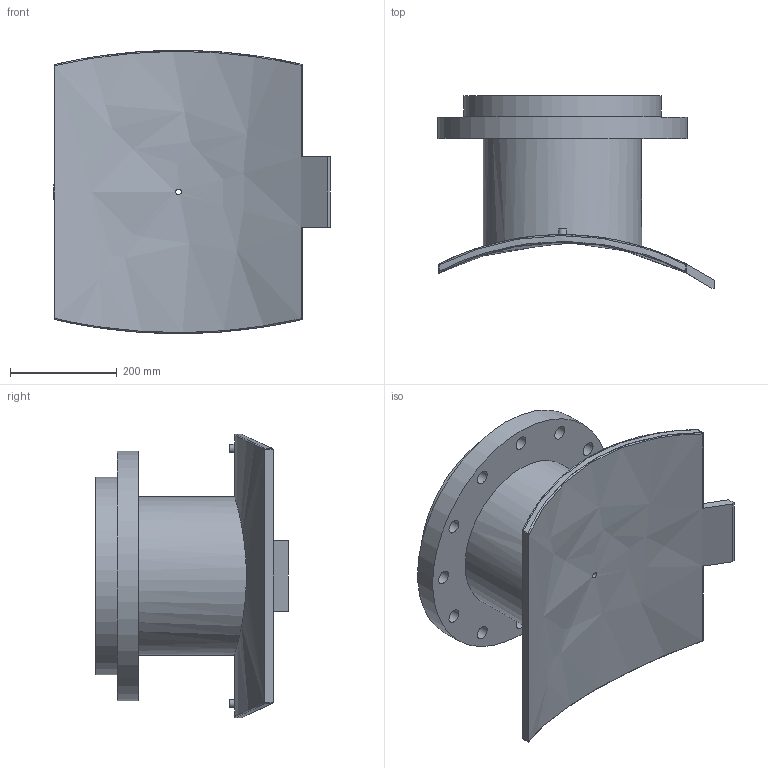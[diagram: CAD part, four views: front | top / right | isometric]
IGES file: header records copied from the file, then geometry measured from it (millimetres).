
Global section: file name: 4959031000300T; native system: Autodesk Inventor 2019; preprocessor: unknown; author: KIM; date: 20240403.210533; units: millimetre
Bounding box: 517.03 x 360.25 x 529.97 mm (x, y, z)
Volume: 13800016.4 mm3; surface area: 1287899.2 mm2
Topology: 1 solids, 1 shells, 62 faces, 163 edges, 126 vertices
Faces by surface type: bspline 62
